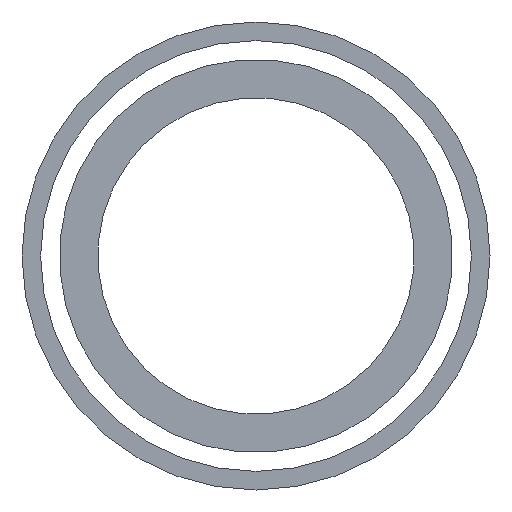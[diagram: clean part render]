
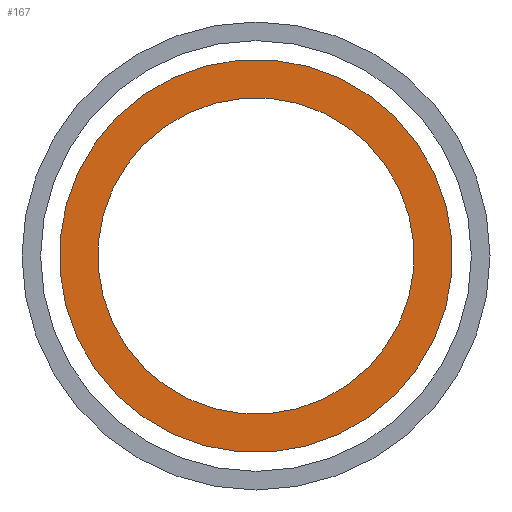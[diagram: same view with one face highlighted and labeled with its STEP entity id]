
A CAD part, front view. The second image highlights one B-rep face of the part: STEP entity #167.
In plain terms, the highlighted planar face has unit normal (0, -1, 0).
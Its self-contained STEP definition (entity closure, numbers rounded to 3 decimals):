
#8 = CARTESIAN_POINT ( 'NONE',  ( 0., 0., 0. ) ) ;
#9 = DIRECTION ( 'NONE',  ( 0., -1., 0. ) ) ;
#10 = DIRECTION ( 'NONE',  ( -0.709, 0., -0.706 ) ) ;
#23 = CARTESIAN_POINT ( 'NONE',  ( 0., 0., 0. ) ) ;
#24 = DIRECTION ( 'NONE',  ( 0., -1., 0. ) ) ;
#25 = DIRECTION ( 'NONE',  ( -0.709, 0., -0.706 ) ) ;
#36 = CARTESIAN_POINT ( 'NONE',  ( 0., 0., 0. ) ) ;
#37 = DIRECTION ( 'NONE',  ( 0., -1., 0. ) ) ;
#38 = DIRECTION ( 'NONE',  ( -0.709, 0., -0.706 ) ) ;
#105 = CIRCLE ( 'NONE', #108, 25.45 ) ;
#108 = AXIS2_PLACEMENT_3D ( 'NONE', #8, #9, #10 ) ;
#114 = CIRCLE ( 'NONE', #116, 31.625 ) ;
#116 = AXIS2_PLACEMENT_3D ( 'NONE', #23, #24, #25 ) ;
#118 = CIRCLE ( 'NONE', #121, 25.45 ) ;
#121 = AXIS2_PLACEMENT_3D ( 'NONE', #36, #37, #38 ) ;
#149 = AXIS2_PLACEMENT_3D ( 'NONE', #279, #284, #285 ) ;
#167 = ADVANCED_FACE ( 'NONE', ( #272, #273 ), #283, .T. ) ;
#170 = EDGE_CURVE ( 'NONE', #215, #205, #386, .T. ) ;
#182 = EDGE_LOOP ( 'NONE', ( #227, #226 ) ) ;
#198 = EDGE_LOOP ( 'NONE', ( #225, #224 ) ) ;
#203 = VERTEX_POINT ( 'NONE', #342 ) ;
#205 = VERTEX_POINT ( 'NONE', #344 ) ;
#211 = VERTEX_POINT ( 'NONE', #348 ) ;
#215 = VERTEX_POINT ( 'NONE', #352 ) ;
#224 = ORIENTED_EDGE ( 'NONE', *, *, #392, .F. ) ;
#225 = ORIENTED_EDGE ( 'NONE', *, *, #375, .F. ) ;
#226 = ORIENTED_EDGE ( 'NONE', *, *, #380, .T. ) ;
#227 = ORIENTED_EDGE ( 'NONE', *, *, #170, .T. ) ;
#272 = FACE_OUTER_BOUND ( 'NONE', #182, .T. ) ;
#273 = FACE_BOUND ( 'NONE', #198, .T. ) ;
#279 = CARTESIAN_POINT ( 'NONE',  ( 0., 0., 0. ) ) ;
#283 = PLANE ( 'NONE',  #149 ) ;
#284 = DIRECTION ( 'NONE',  ( 0., -1., 0. ) ) ;
#285 = DIRECTION ( 'NONE',  ( -0.709, 0., -0.706 ) ) ;
#297 = CARTESIAN_POINT ( 'NONE',  ( 0., 0., 0. ) ) ;
#298 = DIRECTION ( 'NONE',  ( 0., -1., 0. ) ) ;
#299 = DIRECTION ( 'NONE',  ( -0.709, 0., -0.706 ) ) ;
#342 = CARTESIAN_POINT ( 'NONE',  ( 18.032, 0., 17.96 ) ) ;
#344 = CARTESIAN_POINT ( 'NONE',  ( -22.407, 0., -22.317 ) ) ;
#348 = CARTESIAN_POINT ( 'NONE',  ( -18.032, 0., -17.96 ) ) ;
#352 = CARTESIAN_POINT ( 'NONE',  ( 22.407, 0., 22.317 ) ) ;
#375 = EDGE_CURVE ( 'NONE', #203, #211, #105, .T. ) ;
#380 = EDGE_CURVE ( 'NONE', #205, #215, #114, .T. ) ;
#386 = CIRCLE ( 'NONE', #387, 31.625 ) ;
#387 = AXIS2_PLACEMENT_3D ( 'NONE', #297, #298, #299 ) ;
#392 = EDGE_CURVE ( 'NONE', #211, #203, #118, .T. ) ;
